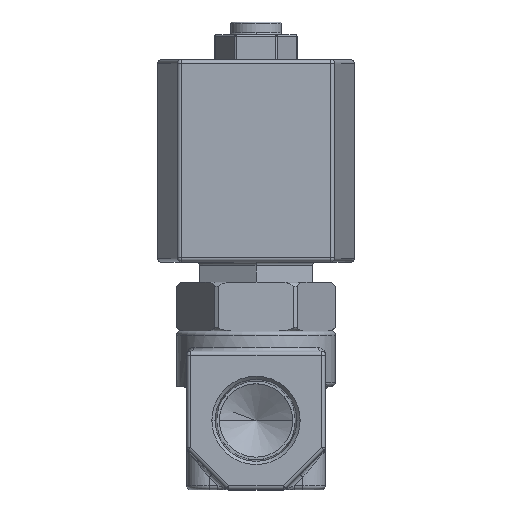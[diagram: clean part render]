
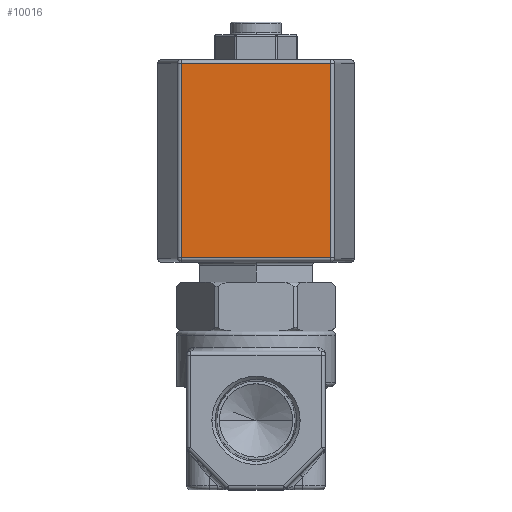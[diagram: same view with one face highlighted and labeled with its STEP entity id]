
A CAD part, top view. The second image highlights one B-rep face of the part: STEP entity #10016.
In plain terms, the highlighted planar face has unit normal (0, 0, 1).
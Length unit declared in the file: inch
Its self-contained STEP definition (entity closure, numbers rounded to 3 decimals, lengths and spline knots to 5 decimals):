
#374 = PLANE ( 'NONE',  #10502 ) ;
#677 = CARTESIAN_POINT ( 'NONE',  ( -0.57465, 1.09, 1.97954 ) ) ;
#939 = EDGE_CURVE ( 'NONE', #8413, #6597, #5130, .T. ) ;
#1077 = CARTESIAN_POINT ( 'NONE',  ( -0.57465, 2.61, 1.97954 ) ) ;
#1094 = ORIENTED_EDGE ( 'NONE', *, *, #12193, .T. ) ;
#1247 = EDGE_LOOP ( 'NONE', ( #11466, #5963, #12035, #1094 ) ) ;
#2800 = EDGE_CURVE ( 'NONE', #12340, #3863, #5054, .T. ) ;
#2830 = CARTESIAN_POINT ( 'NONE',  ( 0.57465, 2.58, 1.97954 ) ) ;
#2940 = CARTESIAN_POINT ( 'NONE',  ( 0.6, 2.58, 1.97954 ) ) ;
#2996 = DIRECTION ( 'NONE',  ( 0., -1., 0. ) ) ;
#3063 = LINE ( 'NONE', #1077, #5035 ) ;
#3402 = CARTESIAN_POINT ( 'NONE',  ( -0.57465, 2.58, 1.97954 ) ) ;
#3863 = VERTEX_POINT ( 'NONE', #4520 ) ;
#4356 = VECTOR ( 'NONE', #13308, 39.37008 ) ;
#4503 = DIRECTION ( 'NONE',  ( -1., 0., 0. ) ) ;
#4520 = CARTESIAN_POINT ( 'NONE',  ( 0.57465, 1.09, 1.97954 ) ) ;
#5035 = VECTOR ( 'NONE', #2996, 39.37008 ) ;
#5054 = LINE ( 'NONE', #9207, #4356 ) ;
#5130 = LINE ( 'NONE', #2940, #8713 ) ;
#5799 = VECTOR ( 'NONE', #12909, 39.37008 ) ;
#5963 = ORIENTED_EDGE ( 'NONE', *, *, #9108, .T. ) ;
#6597 = VERTEX_POINT ( 'NONE', #3402 ) ;
#7136 = DIRECTION ( 'NONE',  ( -1., 0., 0. ) ) ;
#7788 = LINE ( 'NONE', #11952, #5799 ) ;
#8413 = VERTEX_POINT ( 'NONE', #2830 ) ;
#8713 = VECTOR ( 'NONE', #7136, 39.37008 ) ;
#9108 = EDGE_CURVE ( 'NONE', #6597, #12340, #3063, .T. ) ;
#9207 = CARTESIAN_POINT ( 'NONE',  ( 0.6, 1.09, 1.97954 ) ) ;
#9600 = CARTESIAN_POINT ( 'NONE',  ( 0.6, 2.61, 1.97954 ) ) ;
#9730 = FACE_OUTER_BOUND ( 'NONE', #1247, .T. ) ;
#10016 = ADVANCED_FACE ( 'NONE', ( #9730 ), #374, .F. ) ;
#10502 = AXIS2_PLACEMENT_3D ( 'NONE', #9600, #11723, #4503 ) ;
#11466 = ORIENTED_EDGE ( 'NONE', *, *, #939, .T. ) ;
#11723 = DIRECTION ( 'NONE',  ( 0., 0., -1. ) ) ;
#11952 = CARTESIAN_POINT ( 'NONE',  ( 0.57465, 2.61, 1.97954 ) ) ;
#12035 = ORIENTED_EDGE ( 'NONE', *, *, #2800, .T. ) ;
#12193 = EDGE_CURVE ( 'NONE', #3863, #8413, #7788, .T. ) ;
#12340 = VERTEX_POINT ( 'NONE', #677 ) ;
#12909 = DIRECTION ( 'NONE',  ( 0., 1., 0. ) ) ;
#13308 = DIRECTION ( 'NONE',  ( 1., 0., 0. ) ) ;
